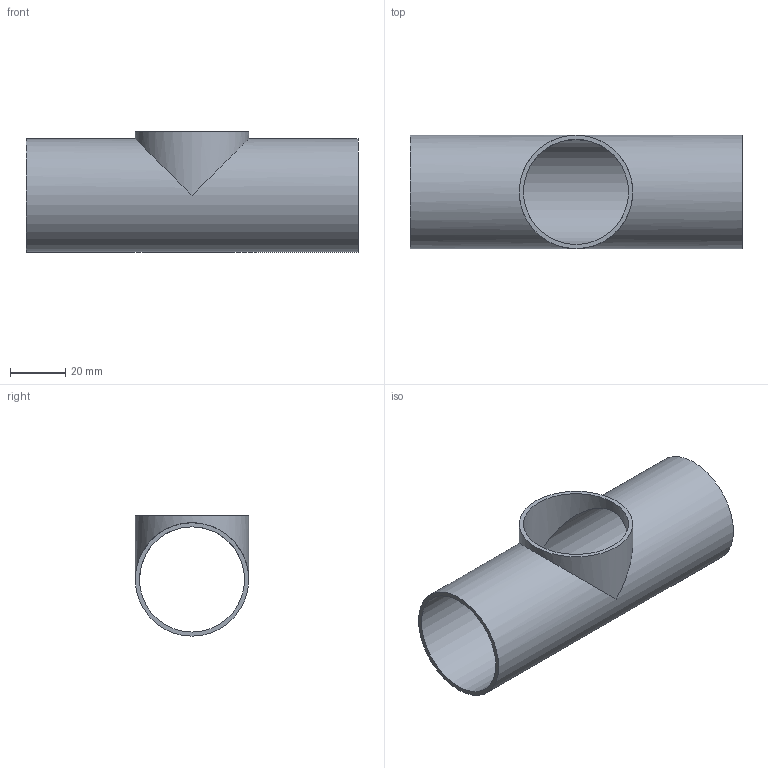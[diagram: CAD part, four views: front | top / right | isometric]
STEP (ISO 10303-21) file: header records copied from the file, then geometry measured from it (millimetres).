
FILE_DESCRIPTION(('FreeCAD Model'),'2;1');
FILE_NAME( '/home/martin/Documents/proyect/accesorios/stp/te_short_DN-40.step', '2018-01-07T08:12:08',('Author'),(''), 'Open CASCADE STEP processor 6.8','FreeCAD','Unknown');
FILE_SCHEMA(('AUTOMOTIVE_DESIGN_CC2 { 1 2 10303 214 -1 1 5 4 }'));
Length unit declared in the file: millimetre
Products named in the file (1): te_short_DN-40
Bounding box: 120 x 41 x 43.5 mm (x, y, z)
Volume: 21934.9 mm3; surface area: 29799 mm2
Topology: 1 solids, 1 shells, 7 faces, 16 edges, 12 vertices
Faces by surface type: cylinder 4, plane 3
Full cylindrical faces by diameter (mm): 38 x2, 41 x2
Entity records: 531 total; most frequent: CARTESIAN_POINT 172, DIRECTION 64, ORIENTED_EDGE 32, PCURVE 32, DEFINITIONAL_REPRESENTATION 32, AXIS2_PLACEMENT_3D 20, LINE 18, VECTOR 18
